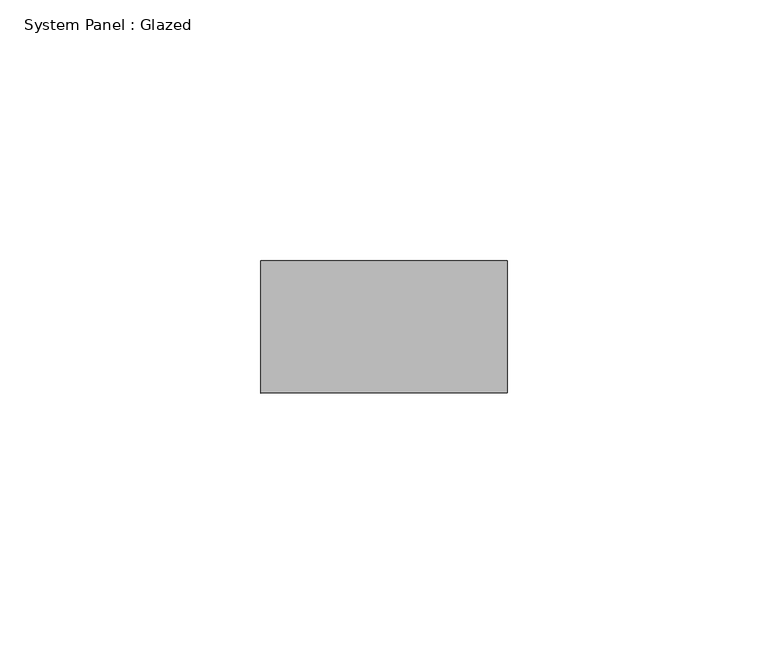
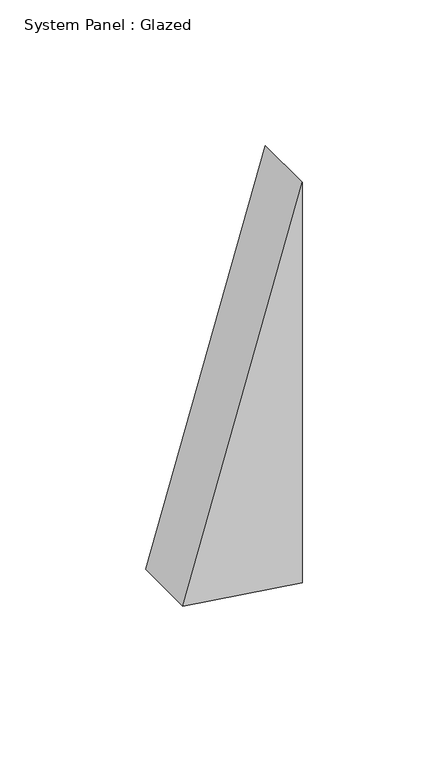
"""IFC4 building model written with IfcOpenShell, lengths in millimetres: plate geometry, System Panel : Glazed."""

from ifc_helpers import new_model, si_unit, frame, origin, place, context, project, spatial, polyline, outline, extrude, source, transform, mapped, element, save


def system_panel_glazed_2c216e95(model_context):
    return source(origin(), model_context, "Body", "SweptSolid", [
        extrude(outline(polyline([(6.8233979, -23.6846133), (0.0, 23.6843813), (167.8344431, 23.6846133), (6.8233979, -23.6846133)])), frame((0.0, -44.45, 0.0), z_axis=(0.0, 1.0, 0.0), x_axis=(0.0, 0.0, 1.0)), (0.0, 0.0, 1.0), 25.4),
    ])


if __name__ == "__main__":
    model = new_model("IFC4")
    model_context = context("Model", 3, world=origin())
    ifc_project = project(units=[si_unit("LENGTHUNIT", "METRE", prefix="MILLI")], contexts=[model_context])
    site = spatial("IfcSite", under=ifc_project)
    building = spatial("IfcBuilding", under=site)
    placement = place(None, origin())
    system_panel_glazed_shape = system_panel_glazed_2c216e95(model_context)
    element("IfcPlate", 1, ObjectType="System Panel : Glazed", at=placement, inside=building, context=model_context, shape_type="MappedRepresentation", body=[
        mapped(system_panel_glazed_shape, transform((0.0, 0.0, 0.0), x_axis=(1.0, 0.0, 0.0), y_axis=(0.0, 1.0, 0.0), z_axis=(0.0, 0.0, 1.0))),
    ])
    save(model, "model.ifc")
